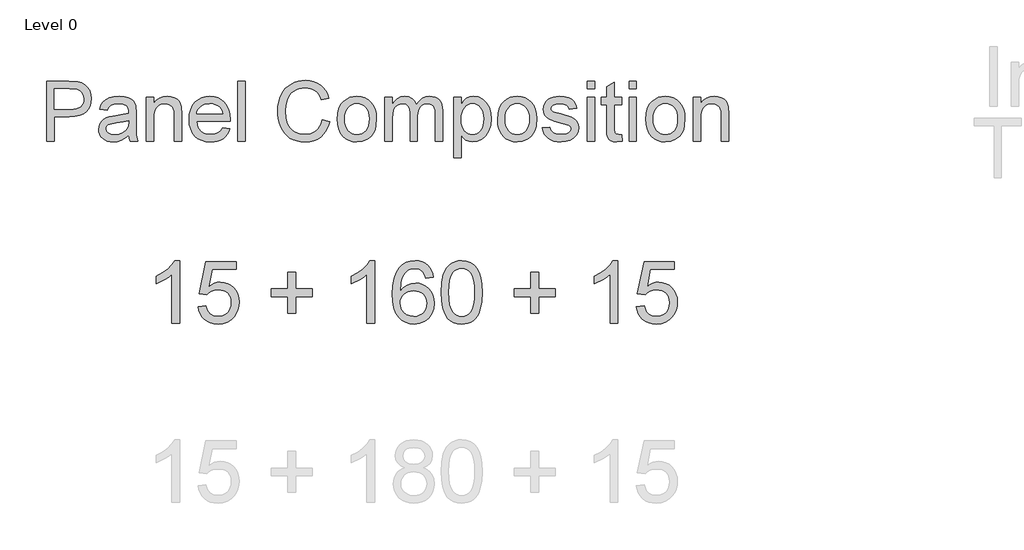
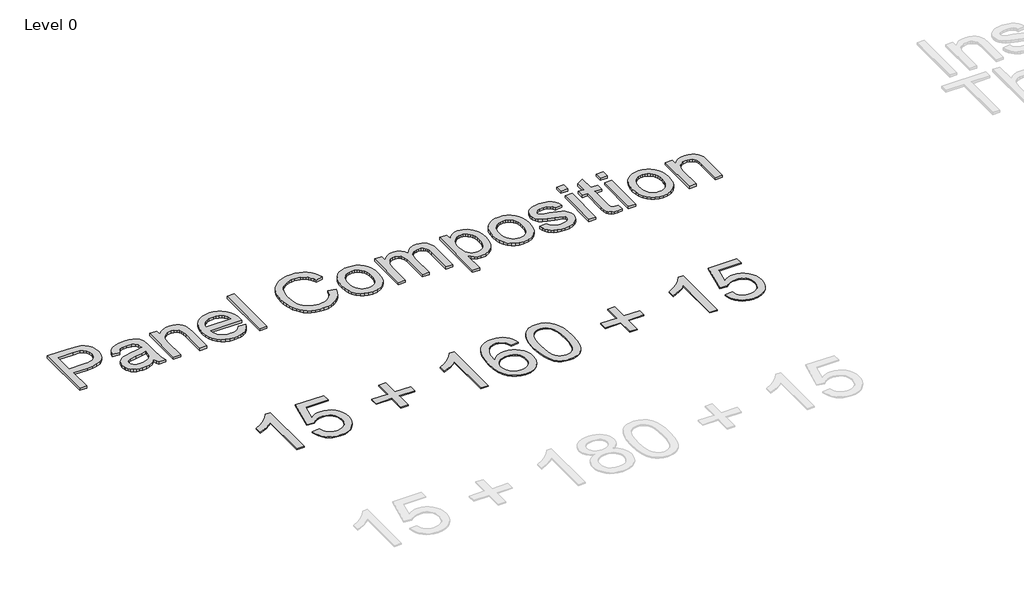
# One storey, part 8 of 11: 2 proxies.
"""IFC4 building model written with IfcOpenShell, lengths in millimetres."""

from ifc_helpers import new_model, si_unit, origin, origin_with_axes, place, context, project, spatial, polyline, outline, extrude, element, save

model = new_model("IFC4")

# Units and contexts
model_context = context("Model", 3, world=origin())
ifc_project = project(units=[si_unit("LENGTHUNIT", "METRE", prefix="MILLI")], contexts=[model_context])

# Site, building, storey
site = spatial("IfcSite", under=ifc_project)
building = spatial("IfcBuilding", under=site)
storey = spatial("IfcBuildingStorey", under=building, Name="Level 0", Elevation=0.0)

# Proxies
placement = place(None, origin())
element("IfcBuildingElementProxy", 1, Name="600mm Arial-500", ObjectType="600mm Arial-500", at=placement, inside=storey, context=model_context, shape_type="SweptSolid", body=[
    extrude(outline(polyline([(27142.4555622, 4210.6676088), (27079.6703683, 4210.6676088), (27079.6703683, 4602.0940517), (27053.4587762, 4580.8948517), (27020.1961124, 4559.7263086), (26954.0999806, 4528.0271433), (26954.0999806, 4587.3787719), (27003.4114964, 4614.2035007), (27046.1317931, 4646.1172638), (27079.8083241, 4680.0543778), (27101.9885427, 4712.9491596), (27142.4555622, 4712.9491596), (27142.4555622, 4210.6676088)])), origin_with_axes(), (0.0, 0.0, 1.0), 8.0),
    extrude(outline(polyline([(27291.5703975, 4344.0861457), (27354.3555914, 4351.934295), (27365.8825606, 4314.2417189), (27374.8650126, 4299.4076438), (27385.993443, 4287.2483775), (27399.244859, 4277.7792482), (27414.5962681, 4271.0155844), (27451.5990654, 4265.6046534), (27475.5113951, 4267.4862166), (27496.6032962, 4273.1309059), (27514.8747686, 4282.5387215), (27530.3258124, 4295.7096634), (27542.6115382, 4311.9922738), (27551.3870566, 4330.735095), (27556.6523677, 4351.9381271), (27558.4074714, 4375.60137), (27556.7634987, 4397.9655296), (27551.8315807, 4417.8464858), (27543.6117174, 4435.2442385), (27532.1039087, 4450.1587877), (27517.2698337, 4462.1226167), (27499.0711712, 4470.6682089), (27477.5079214, 4475.7955642), (27452.5800841, 4477.5046827), (27422.1225206, 4474.7762245), (27397.4590985, 4466.5908501), (27377.7620833, 4454.0522055), (27362.2037406, 4438.2639365), (27299.4185468, 4446.1120857), (27354.3555914, 4705.1010103), (27597.6482175, 4705.1010103), (27597.6482175, 4642.3158165), (27405.1233067, 4642.3158165), (27378.1452937, 4503.9921863), (27400.3025197, 4519.8724258), (27422.9962403, 4531.215454), (27446.2264555, 4538.0212709), (27469.9931652, 4540.2898765), (27500.573356, 4537.4771121), (27528.6703434, 4529.0388188), (27554.2841273, 4514.9749967), (27577.4147078, 4495.2856458), (27596.5675642, 4471.1740467), (27610.2481759, 4443.8434801), (27618.4565429, 4413.2939461), (27621.1926652, 4379.5254446), (27618.7324544, 4346.9985449), (27611.3518218, 4316.7402508), (27599.0507676, 4288.7505623), (27581.8292917, 4263.0294795), (27555.7403269, 4236.6875958), (27525.2980918, 4217.8719646), (27490.5025864, 4206.5825858), (27451.3538108, 4202.8194596), (27418.9533705, 4205.2375173), (27389.6875913, 4212.4916904), (27363.5564734, 4224.5819789), (27340.5600166, 4241.5083828), (27321.4263207, 4262.4278391), (27306.8834856, 4286.4972851), (27296.9315112, 4313.7167206), (27291.5703975, 4344.0861457)])), origin_with_axes(), (0.0, 0.0, 1.0), 8.0),
    extrude(outline(polyline([(28013.6001267, 4289.1491011), (28013.6001267, 4422.567638), (27880.1815898, 4422.567638), (27880.1815898, 4485.3528319), (28013.6001267, 4485.3528319), (28013.6001267, 4618.7713688), (28076.3853206, 4618.7713688), (28076.3853206, 4485.3528319), (28209.8038575, 4485.3528319), (28209.8038575, 4422.567638), (28076.3853206, 4422.567638), (28076.3853206, 4289.1491011), (28013.6001267, 4289.1491011)])), origin_with_axes(), (0.0, 0.0, 1.0), 8.0),
    extrude(outline(polyline([(28712.0854082, 4210.6676088), (28649.3002144, 4210.6676088), (28649.3002144, 4602.0940517), (28623.0886222, 4580.8948517), (28589.8259585, 4559.7263086), (28523.7298267, 4528.0271433), (28523.7298267, 4587.3787719), (28573.0413425, 4614.2035007), (28615.7616392, 4646.1172638), (28649.4381701, 4680.0543778), (28671.6183888, 4712.9491596), (28712.0854082, 4712.9491596), (28712.0854082, 4210.6676088)])), origin_with_axes(), (0.0, 0.0, 1.0), 8.0),
    extrude(outline(polyline([(29182.9743621, 4579.5306227), (29120.1891682, 4571.6824734), (29110.0724134, 4602.7991588), (29096.3994659, 4624.0443441), (29082.9027952, 4635.4716785), (29067.9192681, 4643.6340603), (29051.4488846, 4648.5314894), (29033.4916447, 4650.1639657), (29004.3063397, 4646.3625184), (28976.8378174, 4634.9581766), (28953.2473845, 4610.938548), (28933.979565, 4577.8751537), (28926.4494804, 4556.7870847), (28920.9657394, 4531.108155), (28916.1372882, 4465.9777135), (28941.3218765, 4495.3622878), (28971.5035285, 4516.0709785), (29004.9961185, 4528.3490401), (29040.1135206, 4532.4417273), (29070.2798442, 4529.6442913), (29098.1162485, 4521.2519833), (29123.6227335, 4507.2648032), (29146.7992992, 4487.6827512), (29166.0594545, 4463.6707868), (29179.8167083, 4436.3938697), (29188.0710605, 4405.8519999), (29190.8225113, 4372.0451774), (29185.6415065, 4327.0869319), (29170.0984922, 4285.4089675), (29145.4810554, 4250.0616391), (29113.076783, 4224.0953016), (29074.357203, 4208.1384201), (29030.7938434, 4202.8194596), (28993.3656825, 4206.3449954), (28959.5626921, 4216.9216027), (28929.3848722, 4234.5492817), (28902.8322227, 4259.2280322), (28881.1846666, 4292.0001866), (28865.7221265, 4333.9080772), (28856.4446024, 4384.951704), (28853.3520944, 4445.1310671), (28856.7856597, 4512.5990922), (28867.0863555, 4570.1802886), (28884.254182, 4617.8746564), (28908.289139, 4655.6821957), (28934.3397828, 4680.7364924), (28964.5444274, 4698.6324186), (28998.9030729, 4709.3699743), (29037.4157193, 4712.9491596), (29066.332777, 4710.7342034), (29092.5060481, 4704.0893349), (29115.9355327, 4693.014554), (29136.6212307, 4677.5098607), (29154.0036549, 4658.0964212), (29167.5233183, 4635.2954018), (29177.1802206, 4609.1068022), (29182.9743621, 4579.5306227)]), holes=[polyline([(28916.1372882, 4373.026196), (28919.7701229, 4345.2051201), (28930.668627, 4318.6409744), (28947.5911988, 4295.8016339), (28969.2962365, 4279.1549736), (28995.4925003, 4268.9922335), (29025.8887501, 4265.6046534), (29047.7125831, 4267.3597571), (29067.3214598, 4272.6250682), (29084.7153804, 4281.4005866), (29099.8943448, 4293.6863124), (29112.2068953, 4308.984072), (29121.0015743, 4326.795692), (29126.2783817, 4347.1211722), (29128.0373175, 4369.9605127), (29126.3013743, 4391.906973), (29121.0935448, 4411.3932224), (29112.413829, 4428.419261), (29100.2622268, 4442.9850888), (29085.0372772, 4454.6538458), (29067.1375188, 4462.9886723), (29046.5629518, 4467.9895681), (29023.3135762, 4469.6565334), (29001.7809831, 4467.9895681), (28981.9421801, 4462.9886723), (28963.7971671, 4454.6538458), (28947.3459442, 4442.9850888), (28933.6921572, 4428.6108662), (28923.9394522, 4412.1596433), (28918.0878292, 4393.6314199), (28916.1372882, 4373.026196)])]), origin_with_axes(), (0.0, 0.0, 1.0), 8.0),
    extrude(outline(polyline([(29245.7595559, 4457.7616822), (29250.3734093, 4538.1592266), (29264.2149693, 4602.2779927), (29274.5616504, 4628.4780885), (29287.1462804, 4651.0989991), (29301.9688591, 4670.1407245), (29319.0293866, 4685.6032646), (29338.3853445, 4697.5670936), (29360.0942143, 4706.1126858), (29384.1559961, 4711.2400411), (29410.5706897, 4712.9491596), (29449.2596129, 4708.9024576), (29483.9018341, 4696.7623518), (29512.8725412, 4677.004023), (29534.5469221, 4650.1026521), (29550.9176709, 4616.2881653), (29563.9774817, 4575.790489), (29572.5307381, 4524.3636518), (29575.3818236, 4457.7616822), (29570.8139555, 4377.8239904), (29557.1103512, 4313.8585085), (29546.8441442, 4287.6469163), (29534.3169959, 4264.9915168), (29519.5289061, 4245.8923099), (29502.4798749, 4230.3492956), (29483.1009244, 4218.3049923), (29461.3230767, 4209.7019186), (29437.1463318, 4204.5400743), (29410.5706897, 4202.8194596), (29375.9897822, 4205.8085008), (29345.3329493, 4214.7756244), (29318.600191, 4229.7208305), (29295.7915073, 4250.644119), (29273.9025285, 4288.4669866), (29258.2675437, 4335.594203), (29248.8865529, 4392.0257682), (29245.7595559, 4457.7616822)]), holes=[polyline([(29308.5447498, 4457.8843096), (29310.3841597, 4403.3036507), (29315.9023897, 4359.1233223), (29325.0994395, 4325.3433245), (29337.9753094, 4301.9636573), (29353.5489805, 4286.0565931), (29370.8394343, 4274.6944044), (29389.8466707, 4267.8770912), (29410.5706897, 4265.6046534), (29431.2947088, 4267.8847554), (29450.3019452, 4274.7250612), (29467.592399, 4286.125571), (29483.1660701, 4302.0862846), (29496.04194, 4325.5042729), (29505.2389898, 4359.2766065), (29510.7572198, 4403.4032854), (29512.5966297, 4457.8843096), (29510.8185334, 4511.0202653), (29505.4842445, 4554.4226765), (29496.593763, 4588.0915432), (29484.1470888, 4612.0268656), (29468.8340007, 4628.7118469), (29451.3442775, 4640.6296907), (29431.6779192, 4647.780397), (29409.8349258, 4650.1639657), (29389.2182056, 4648.0639727), (29370.5328659, 4641.7639935), (29353.7789067, 4631.2640282), (29338.956328, 4616.5640768), (29325.6512625, 4590.5057688), (29316.1476443, 4555.3730383), (29310.4454734, 4511.1658852), (29308.5447498, 4457.8843096)])]), origin_with_axes(), (0.0, 0.0, 1.0), 8.0),
    extrude(outline(polyline([(29967.7892851, 4289.1491011), (29967.7892851, 4422.567638), (29834.3707482, 4422.567638), (29834.3707482, 4485.3528319), (29967.7892851, 4485.3528319), (29967.7892851, 4618.7713688), (30030.574479, 4618.7713688), (30030.574479, 4485.3528319), (30163.9930159, 4485.3528319), (30163.9930159, 4422.567638), (30030.574479, 4422.567638), (30030.574479, 4289.1491011), (29967.7892851, 4289.1491011)])), origin_with_axes(), (0.0, 0.0, 1.0), 8.0),
    extrude(outline(polyline([(30666.2745666, 4210.6676088), (30603.4893728, 4210.6676088), (30603.4893728, 4602.0940517), (30577.2777806, 4580.8948517), (30544.0151169, 4559.7263086), (30477.9189851, 4528.0271433), (30477.9189851, 4587.3787719), (30527.2305009, 4614.2035007), (30569.9507975, 4646.1172638), (30603.6273285, 4680.0543778), (30625.8075471, 4712.9491596), (30666.2745666, 4712.9491596), (30666.2745666, 4210.6676088)])), origin_with_axes(), (0.0, 0.0, 1.0), 8.0),
    extrude(outline(polyline([(30815.389402, 4344.0861457), (30878.1745958, 4351.934295), (30889.701565, 4314.2417189), (30898.6840171, 4299.4076438), (30909.8124474, 4287.2483775), (30923.0638635, 4277.7792482), (30938.4152726, 4271.0155844), (30975.4180699, 4265.6046534), (30999.3303996, 4267.4862166), (31020.4223006, 4273.1309059), (31038.6937731, 4282.5387215), (31054.1448169, 4295.7096634), (31066.4305427, 4311.9922738), (31075.2060611, 4330.735095), (31080.4713721, 4351.9381271), (31082.2264758, 4375.60137), (31080.5825032, 4397.9655296), (31075.6505852, 4417.8464858), (31067.4307218, 4435.2442385), (31055.9229132, 4450.1587877), (31041.0888381, 4462.1226167), (31022.8901757, 4470.6682089), (31001.3269258, 4475.7955642), (30976.3990886, 4477.5046827), (30945.941525, 4474.7762245), (30921.2781029, 4466.5908501), (30901.5810878, 4454.0522055), (30886.0227451, 4438.2639365), (30823.2375512, 4446.1120857), (30878.1745958, 4705.1010103), (31121.467222, 4705.1010103), (31121.467222, 4642.3158165), (30928.9423112, 4642.3158165), (30901.9642982, 4503.9921863), (30924.1215242, 4519.8724258), (30946.8152448, 4531.215454), (30970.0454599, 4538.0212709), (30993.8121697, 4540.2898765), (31024.3923605, 4537.4771121), (31052.4893479, 4529.0388188), (31078.1031318, 4514.9749967), (31101.2337122, 4495.2856458), (31120.3865686, 4471.1740467), (31134.0671803, 4443.8434801), (31142.2755473, 4413.2939461), (31145.0116697, 4379.5254446), (31142.5514588, 4346.9985449), (31135.1708263, 4316.7402508), (31122.8697721, 4288.7505623), (31105.6482962, 4263.0294795), (31079.5593314, 4236.6875958), (31049.1170963, 4217.8719646), (31014.3215909, 4206.5825858), (30975.1728152, 4202.8194596), (30942.7723749, 4205.2375173), (30913.5065958, 4212.4916904), (30887.3754778, 4224.5819789), (30864.379021, 4241.5083828), (30845.2453252, 4262.4278391), (30830.70249, 4286.4972851), (30820.7505157, 4313.7167206), (30815.389402, 4344.0861457)])), origin_with_axes(), (0.0, 0.0, 1.0), 8.0),
])
element("IfcBuildingElementProxy", 2, Name="Arial-500 Blanco", ObjectType="Arial-500 Blanco", at=placement, inside=storey, context=model_context, shape_type="SweptSolid", body=[
    extrude(outline(polyline([(26072.4335672, 5675.3857513), (26072.4335672, 6155.0189703), (26250.1882612, 6155.0189703), (26321.852209, 6150.4521501), (26353.8053131, 6141.9186367), (26380.108441, 6128.0278919), (26401.2885334, 6108.1505143), (26417.8725311, 6081.6571022), (26428.5869939, 6050.4065858), (26432.1584815, 6016.257895), (26429.7469955, 5986.8150782), (26422.5125375, 5959.7288578), (26410.4551076, 5934.9992336), (26393.5747057, 5912.6262058), (26370.4002888, 5894.0808174), (26339.4608138, 5880.8341113), (26300.7562807, 5872.8860877), (26254.2866896, 5870.2367465), (26132.3877196, 5870.2367465), (26132.3877196, 5675.3857513), (26072.4335672, 5675.3857513)]), holes=[polyline([(26132.3877196, 5930.1908989), (26257.7996282, 5930.1908989), (26286.6349993, 5931.5667999), (26310.9620993, 5935.6945027), (26330.7809279, 5942.5740075), (26346.0914854, 5952.2053142), (26357.5158545, 5964.3322711), (26365.6761182, 5978.6987263), (26370.5722764, 5995.3046799), (26372.2043291, 6014.1501318), (26368.3547339, 6041.0826612), (26356.8059482, 6063.7996643), (26338.992422, 6080.8959655), (26316.3486051, 6090.9663895), (26256.3944528, 6095.0648179), (26132.3877196, 6095.0648179), (26132.3877196, 5930.1908989)])]), origin_with_axes(), (0.0, 0.0, 1.0), 20.0),
    extrude(outline(polyline([(26731.9292434, 5720.3513656), (26703.2841564, 5695.7900698), (26673.7901093, 5679.7183756), (26642.7737888, 5670.8482056), (26609.5618816, 5667.8914823), (26582.8672074, 5669.6699074), (26559.4585946, 5675.005183), (26539.3360431, 5683.8973088), (26522.4995529, 5696.346285), (26509.2052758, 5711.5617004), (26499.7093636, 5728.7531438), (26494.0118163, 5747.9206151), (26492.1126339, 5769.0641144), (26494.9815337, 5793.9181551), (26503.5882333, 5816.4887857), (26516.8642139, 5835.8099481), (26533.7409565, 5850.9155841), (26553.5744224, 5862.3326346), (26575.7205729, 5870.5880404), (26627.5949665, 5879.6045828), (26688.8957453, 5889.0895171), (26731.5779495, 5900.2138227), (26731.9292434, 5913.5629894), (26727.8015405, 5940.3198719), (26715.4184319, 5957.826016), (26687.7247658, 5970.8238889), (26649.14099, 5975.1565132), (26613.4261141, 5972.2729761), (26588.4842499, 5963.6223647), (26571.4757721, 5947.6238568), (26559.5610553, 5922.6966299), (26499.6069029, 5930.1908989), (26510.0139836, 5962.978326), (26525.5440997, 5988.7398758), (26547.6463385, 6008.4416066), (26577.7697871, 6023.0495763), (26614.6117309, 6032.0953932), (26656.869455, 6035.1106656), (26697.3999842, 6032.4466871), (26729.5287353, 6024.4547518), (26753.7533745, 6012.4375742), (26770.5715681, 5997.6978693), (26781.7251483, 5979.4745002), (26788.9559469, 5957.0063303), (26791.8833958, 5904.546447), (26791.8833958, 5829.9550504), (26794.9279426, 5725.7964204), (26806.8719338, 5675.3857513), (26746.9177815, 5675.3857513), (26737.3157493, 5696.2291871), (26731.9292434, 5720.3513656)]), holes=[polyline([(26731.9292434, 5840.2596703), (26691.6475472, 5830.2770698), (26635.2063335, 5821.8752916), (26583.6246848, 5812.1561614), (26570.2023319, 5805.5108525), (26560.263643, 5796.3479376), (26554.1160004, 5785.3700045), (26552.0667862, 5773.2796407), (26556.5311457, 5755.4514773), (26569.9242242, 5740.8435075), (26591.9532768, 5731.0951028), (26622.3255586, 5727.8456346), (26654.5274959, 5731.4317595), (26682.9822987, 5742.190134), (26706.0505956, 5758.0422695), (26722.0930153, 5776.9096773), (26729.2067159, 5796.3479376), (26731.5779495, 5823.280467), (26731.9292434, 5840.2596703)])]), origin_with_axes(), (0.0, 0.0, 1.0), 20.0),
    extrude(outline(polyline([(26874.3203553, 5675.3857513), (26874.3203553, 6027.6163965), (26934.2745076, 6027.6163965), (26934.2745076, 5978.4352559), (26955.1033062, 6003.2307476), (26980.1183566, 6020.9418131), (27009.3196588, 6031.5684525), (27042.7072129, 6035.1106656), (27072.259809, 6032.2564029), (27099.3240736, 6023.6936151), (27121.8947042, 6010.4908208), (27137.9663984, 5993.7165389), (27148.8711453, 5973.4146811), (27155.9409343, 5949.6291592), (27159.1025791, 5891.6656721), (27159.1025791, 5675.3857513), (27099.1484267, 5675.3857513), (27099.1484267, 5883.5859133), (27097.4212319, 5914.5875965), (27092.2396474, 5936.6312864), (27082.6815269, 5952.4248729), (27067.824724, 5964.6762463), (27048.7816693, 5972.5364465), (27026.6647932, 5975.1565132), (26991.5500443, 5969.272341), (26975.935764, 5961.9171258), (26961.6168799, 5951.6198245), (26949.654592, 5937.2094575), (26941.1101007, 5917.5150454), (26935.9834059, 5892.5365881), (26934.2745076, 5862.2740857), (26934.2745076, 5675.3857513), (26874.3203553, 5675.3857513)])), origin_with_axes(), (0.0, 0.0, 1.0), 20.0),
    extrude(outline(polyline([(27488.1478294, 5780.305518), (27546.9310022, 5772.8112489), (27537.9181191, 5749.2672416), (27525.7509098, 5728.5189479), (27510.4293744, 5710.5663678), (27491.9535129, 5695.4095014), (27470.5136094, 5683.370368), (27446.2999481, 5674.770987), (27419.3125291, 5669.6113585), (27389.5513522, 5667.8914823), (27352.350796, 5670.8591835), (27319.2047565, 5679.7622873), (27290.1132336, 5694.6007937), (27265.0762273, 5715.3747025), (27244.9426979, 5741.5058428), (27230.5616054, 5772.4160433), (27221.9329499, 5808.1053041), (27219.0567314, 5848.5736251), (27221.9622244, 5890.4141877), (27230.6787033, 5927.2927245), (27245.2061682, 5959.2092356), (27265.5446191, 5986.1637208), (27290.5157578, 6007.5780092), (27318.9412861, 6022.8739294), (27350.821204, 6032.0514815), (27386.1555116, 6035.1106656), (27420.3517734, 6032.0588001), (27451.2766112, 6022.9032039), (27478.9300248, 6007.6438768), (27503.3120144, 5986.2808188), (27523.2150073, 5959.3848825), (27537.4314307, 5927.5269204), (27545.9612848, 5890.7069326), (27548.8045695, 5848.9249189), (27548.4532756, 5832.7654013), (27279.0108838, 5832.7654013), (27282.48357, 5808.8408256), (27289.38869, 5787.8876105), (27299.7262437, 5769.9057559), (27313.4962312, 5754.895262), (27329.9375158, 5743.06105), (27348.2889608, 5734.6080415), (27368.5505661, 5729.5362363), (27390.7223318, 5727.8456346), (27422.6315242, 5730.9780049), (27449.5055046, 5740.3751157), (27471.344273, 5756.6224568), (27488.1478294, 5780.305518)]), holes=[polyline([(27279.0108838, 5892.7195537), (27488.8504171, 5892.7195537), (27480.7413838, 5924.3945502), (27464.8453366, 5947.0530043), (27448.4955348, 5959.3482894), (27429.8915973, 5968.1306359), (27409.0335243, 5973.4000439), (27385.9213157, 5975.1565132), (27345.5078843, 5969.5504486), (27327.9248947, 5962.542868), (27312.0910558, 5952.732255), (27298.8040973, 5940.5723644), (27288.8617492, 5926.5169506), (27282.2640113, 5910.5660137), (27279.0108838, 5892.7195537)])]), origin_with_axes(), (0.0, 0.0, 1.0), 20.0),
    extrude(outline(polyline([(27608.7587219, 5675.3857513), (27608.7587219, 6155.0189703), (27668.7128742, 6155.0189703), (27668.7128742, 5675.3857513), (27608.7587219, 5675.3857513)])), origin_with_axes(), (0.0, 0.0, 1.0), 20.0),
    extrude(outline(polyline([(28290.7372051, 5845.8803721), (28350.6913575, 5830.4234422), (28338.8278711, 5793.1387218), (28323.0269659, 5760.5598755), (28303.2886421, 5732.6869032), (28279.6128995, 5709.5198049), (28252.5339977, 5691.3074137), (28222.586196, 5678.2985629), (28189.7694944, 5670.4932524), (28154.083893, 5667.8914823), (28117.5237162, 5669.8601916), (28084.5423456, 5675.7663197), (28055.1397813, 5685.6098664), (28029.3160232, 5699.3908318), (28006.7161181, 5716.9042946), (27986.9851128, 5737.9453332), (27970.1230075, 5762.5139476), (27956.129802, 5790.6101379), (27945.1408909, 5821.0190128), (27937.2916687, 5852.525681), (27932.5821353, 5885.1301425), (27931.0122909, 5918.8323974), (27932.7870568, 5954.9937092), (27938.1113543, 5988.7691503), (27946.9851837, 6020.1587206), (27959.4085447, 6049.16242), (27975.1033298, 6075.3008789), (27993.7914314, 6098.0947275), (28015.4728494, 6117.5439658), (28040.1475839, 6133.6485937), (28066.9776526, 6146.2768762), (28095.1250732, 6155.2970779), (28124.5898459, 6160.709199), (28155.3719705, 6162.5132394), (28189.6633744, 6160.1785989), (28221.1078343, 6153.1746775), (28249.7053502, 6141.5014753), (28275.4559222, 6125.1589921), (28297.93507, 6104.5790267), (28316.7183137, 6080.1933778), (28331.8056531, 6052.0020454), (28343.1970885, 6020.0050295), (28283.2429361, 6005.7190791), (28273.8019136, 6029.2960203), (28262.4580493, 6049.4405277), (28249.2113433, 6066.1526013), (28234.0617955, 6079.4322411), (28216.9215825, 6089.5502362), (28197.7028808, 6096.7773755), (28153.0300114, 6102.559087), (28126.1340751, 6100.9563087), (28101.5361862, 6096.147974), (28079.2363446, 6088.1340828), (28059.2345504, 6076.9146351), (28041.7832959, 6062.9946158), (28027.1350738, 6046.8790099), (28015.2898839, 6028.5678174), (28006.2477262, 6008.0610382), (27994.786764, 5964.17858), (27990.9664433, 5918.9494953), (27995.4893517, 5863.5621632), (28009.0580771, 5815.6691), (28019.3626971, 5794.9903332), (28032.184923, 5777.0999615), (28047.524755, 5761.9979847), (28065.3821929, 5749.684403), (28105.18086, 5733.3053267), (28148.1118973, 5727.8456346), (28174.17717, 5729.7045646), (28198.1566354, 5735.2813547), (28220.0502934, 5744.5760048), (28239.8581442, 5757.5885149), (28257.1117958, 5774.2603361), (28271.3428565, 5794.5329194), (28282.5513263, 5818.4062647), (28290.7372051, 5845.8803721)])), origin_with_axes(), (0.0, 0.0, 1.0), 20.0),
    extrude(outline(polyline([(28410.6455099, 5851.5010739), (28413.8876595, 5897.1180456), (28423.6141083, 5936.4263649), (28439.8248563, 5969.4260321), (28462.5199035, 5996.1170469), (28485.3686417, 6013.1767551), (28510.5886135, 6025.3622609), (28538.1798189, 6032.6735644), (28568.1422578, 6035.1106656), (28601.2187705, 6032.1429643), (28631.1263198, 6023.2398605), (28657.8649057, 6008.4013541), (28681.4345282, 5987.6274453), (28700.6715264, 5961.6207216), (28714.4122394, 5931.0837708), (28722.6566673, 5896.0165929), (28725.4048099, 5856.419188), (28720.5452448, 5795.8502713), (28714.4707884, 5770.988912), (28705.9665495, 5749.742952), (28682.0932042, 5715.2136929), (28649.3496888, 5689.3789568), (28610.4585309, 5673.2633509), (28568.1422578, 5667.8914823), (28534.5827161, 5670.8482056), (28504.3970592, 5679.7183756), (28477.5852871, 5694.5019923), (28454.1473998, 5715.1990556), (28435.1153229, 5741.4582718), (28421.5209824, 5772.9283469), (28413.364378, 5809.6092809), (28410.6455099, 5851.5010739)]), holes=[polyline([(28470.5996623, 5851.6181719), (28472.3341757, 5822.5376269), (28477.537716, 5797.3579075), (28486.2102832, 5776.0790137), (28498.3518773, 5758.7009455), (28513.1208568, 5745.201747), (28529.67558, 5735.5594623), (28548.016047, 5729.7740916), (28568.1422578, 5727.8456346), (28588.1660079, 5729.7850695), (28606.4332887, 5735.6033741), (28622.9441002, 5745.3005484), (28637.6984424, 5758.8765924), (28649.8400365, 5776.4266482), (28658.5126037, 5798.045858), (28663.716144, 5823.7342216), (28665.4506575, 5853.4917391), (28663.7051661, 5881.6501377), (28658.468692, 5906.1711811), (28649.7412351, 5927.0548693), (28637.5227955, 5944.3012023), (28622.7135636, 5957.8004008), (28606.2137301, 5967.4426855), (28588.0232948, 5973.2280563), (28568.1422578, 5975.1565132), (28548.016047, 5973.2353749), (28529.67558, 5967.47196), (28513.1208568, 5957.8662684), (28498.3518773, 5944.4183003), (28486.2102832, 5927.0914624), (28477.537716, 5905.8491617), (28472.3341757, 5880.6913982), (28470.5996623, 5851.6181719)])]), origin_with_axes(), (0.0, 0.0, 1.0), 20.0),
    extrude(outline(polyline([(28792.8532313, 5675.3857513), (28792.8532313, 6027.6163965), (28852.8073837, 6027.6163965), (28852.8073837, 5969.6529093), (28870.8404686, 5996.2780566), (28894.0258634, 6017.1361296), (28921.5731571, 6030.6170316), (28952.6919383, 6035.1106656), (28986.0355807, 6030.5292081), (29012.7631886, 6016.7848358), (29032.7283898, 5994.7850577), (29045.7848116, 5965.437383), (29067.6382173, 5995.9194441), (29092.5654442, 6017.6923449), (29120.5664924, 6030.7560854), (29151.6413619, 6035.1106656), (29175.6427831, 6033.2993066), (29196.7094369, 6027.8652297), (29214.8413232, 6018.8084348), (29230.038442, 6006.128922), (29242.0519602, 5989.6803188), (29250.6330447, 5969.3162527), (29255.7816953, 5945.0367239), (29257.4979122, 5916.8417322), (29257.4979122, 5675.3857513), (29197.5437598, 5675.3857513), (29197.5437598, 5891.0801823), (29196.1532216, 5920.9840723), (29191.981607, 5941.1395576), (29184.1653186, 5954.9424789), (29171.840759, 5965.7886769), (29155.9886234, 5972.8145541), (29137.5896074, 5975.1565132), (29120.5994262, 5973.6561956), (29105.1095625, 5969.155243), (29091.1200163, 5961.6536554), (29078.6307877, 5951.1514326), (29068.3591015, 5937.3411927), (29061.0221829, 5919.9155534), (29056.6200317, 5898.8745149), (29055.1526479, 5874.218077), (29055.1526479, 5675.3857513), (28995.1984956, 5675.3857513), (28995.1984956, 5897.7547657), (28991.7294687, 5931.6546233), (28981.322388, 5955.8353508), (28973.275563, 5964.2883593), (28963.0111955, 5970.3262226), (28935.8298329, 5975.1565132), (28912.7322616, 5971.9363194), (28891.4497084, 5962.2757383), (28873.8850154, 5946.4089655), (28861.9410241, 5924.5701971), (28855.0907938, 5894.2711016), (28852.8073837, 5853.0233473), (28852.8073837, 5675.3857513), (28792.8532313, 5675.3857513)])), origin_with_axes(), (0.0, 0.0, 1.0), 20.0),
    extrude(outline(polyline([(29347.4291408, 5540.4889085), (29347.4291408, 6027.6163965), (29407.3832931, 6027.6163965), (29407.3832931, 5968.8332237), (29426.9386514, 5997.8296045), (29448.8359688, 6018.5413051), (29474.3633227, 6030.9683254), (29504.8087907, 6035.1106656), (29545.3539573, 6029.3143168), (29580.8053628, 6011.9252707), (29609.6700084, 5983.9974087), (29630.4548952, 5946.5846124), (29643.0136508, 5902.4094093), (29647.1999026, 5854.1943268), (29642.4720728, 5802.9200603), (29628.2885831, 5757.0615741), (29605.1031882, 5718.9461901), (29590.3049343, 5703.6649072), (29573.3696427, 5690.9012302), (29536.410601, 5673.6439192), (29497.5487176, 5667.8914823), (29469.9867867, 5671.7410775), (29445.3815792, 5683.2898632), (29424.3185847, 5700.7228211), (29407.3832931, 5722.2249328), (29407.3832931, 5540.4889085), (29347.4291408, 5540.4889085)]), holes=[polyline([(29407.3832931, 5848.690723), (29409.0043679, 5819.7968029), (29413.8675923, 5794.9427622), (29421.9729663, 5774.1286009), (29433.3204899, 5757.354319), (29446.9806981, 5744.4442696), (29462.0241259, 5735.2228057), (29478.4507732, 5729.6899274), (29496.2606401, 5727.8456346), (29514.3266588, 5729.755795), (29531.0533697, 5735.4862761), (29546.4407727, 5745.037078), (29560.4888678, 5758.4082006), (29572.1950039, 5775.7899281), (29580.5565297, 5797.3725447), (29585.5734451, 5823.1560504), (29587.2457503, 5853.1404453), (29585.6136975, 5881.7855322), (29580.7175393, 5906.5956612), (29572.5572757, 5927.5708322), (29561.1329066, 5944.7110452), (29547.4397646, 5958.0309374), (29532.4731823, 5967.5451462), (29516.2331599, 5973.2536714), (29498.7196971, 5975.1565132), (29481.2611241, 5973.1329142), (29464.8344767, 5967.0621171), (29449.4397551, 5956.944122), (29435.0769592, 5942.7789289), (29422.9609803, 5924.756822), (29414.3067097, 5903.0680853), (29409.1141473, 5877.712719), (29407.3832931, 5848.690723)])]), origin_with_axes(), (0.0, 0.0, 1.0), 20.0),
    extrude(outline(polyline([(29699.659786, 5851.5010739), (29702.9019356, 5897.1180456), (29712.6283844, 5936.4263649), (29728.8391323, 5969.4260321), (29751.5341795, 5996.1170469), (29774.3829178, 6013.1767551), (29799.6028896, 6025.3622609), (29827.194095, 6032.6735644), (29857.1565339, 6035.1106656), (29890.2330466, 6032.1429643), (29920.1405958, 6023.2398605), (29946.8791817, 6008.4013541), (29970.4488043, 5987.6274453), (29989.6858025, 5961.6207216), (30003.4265155, 5931.0837708), (30011.6709433, 5896.0165929), (30014.4190859, 5856.419188), (30009.5595209, 5795.8502713), (30003.4850645, 5770.988912), (29994.9808256, 5749.742952), (29971.1074803, 5715.2136929), (29938.3639649, 5689.3789568), (29899.472807, 5673.2633509), (29857.1565339, 5667.8914823), (29823.5969922, 5670.8482056), (29793.4113353, 5679.7183756), (29766.5995632, 5694.5019923), (29743.1616758, 5715.1990556), (29724.129599, 5741.4582718), (29710.5352584, 5772.9283469), (29702.3786541, 5809.6092809), (29699.659786, 5851.5010739)]), holes=[polyline([(29759.6139383, 5851.6181719), (29761.3484518, 5822.5376269), (29766.5519921, 5797.3579075), (29775.2245593, 5776.0790137), (29787.3661534, 5758.7009455), (29802.1351328, 5745.201747), (29818.6898561, 5735.5594623), (29837.0303231, 5729.7740916), (29857.1565339, 5727.8456346), (29877.180284, 5729.7850695), (29895.4475648, 5735.6033741), (29911.9583763, 5745.3005484), (29926.7127185, 5758.8765924), (29938.8543126, 5776.4266482), (29947.5268798, 5798.045858), (29952.7304201, 5823.7342216), (29954.4649336, 5853.4917391), (29952.7194422, 5881.6501377), (29947.4829681, 5906.1711811), (29938.7555112, 5927.0548693), (29926.5370716, 5944.3012023), (29911.7278397, 5957.8004008), (29895.2280062, 5967.4426855), (29877.0375709, 5973.2280563), (29857.1565339, 5975.1565132), (29837.0303231, 5973.2353749), (29818.6898561, 5967.47196), (29802.1351328, 5957.8662684), (29787.3661534, 5944.4183003), (29775.2245593, 5927.0914624), (29766.5519921, 5905.8491617), (29761.3484518, 5880.6913982), (29759.6139383, 5851.6181719)])]), origin_with_axes(), (0.0, 0.0, 1.0), 20.0),
    extrude(outline(polyline([(30059.3847002, 5780.305518), (30119.3388526, 5787.799787), (30128.7945124, 5762.1553351), (30147.0910677, 5743.3025645), (30174.3456164, 5731.7098671), (30210.6752566, 5727.8456346), (30246.5657795, 5731.3878477), (30271.8003885, 5742.014487), (30286.7303776, 5757.412868), (30291.7070407, 5775.2703059), (30286.7011032, 5790.5515889), (30271.6832906, 5802.2028353), (30209.9726689, 5819.2991366), (30155.2586499, 5835.1219976), (30119.6901465, 5848.632174), (30096.8414082, 5863.371879), (30080.286685, 5882.8833255), (30070.2308982, 5905.922348), (30066.8789693, 5931.2447805), (30069.5722222, 5954.4740871), (30077.651981, 5975.9176499), (30090.3863835, 5994.7265087), (30107.0435674, 6010.0517034), (30123.5982907, 6019.6976474), (30145.1589514, 6027.7920434), (30170.0861784, 6033.28101), (30196.7406001, 6035.1106656), (30235.7634932, 6032.1685795), (30269.6926254, 6023.3423212), (30296.9764486, 6009.4954881), (30316.0634151, 5991.4916777), (30328.7099941, 5967.9989007), (30336.672655, 5937.6851679), (30276.7185026, 5930.1908989), (30269.1510473, 5949.0583067), (30254.1771465, 5963.2710709), (30231.6504276, 5972.1851526), (30201.4245183, 5975.1565132), (30166.9977198, 5972.3168878), (30144.0465209, 5963.7980117), (30131.1364715, 5951.5027265), (30126.8331216, 5937.3338741), (30128.6188654, 5928.1124102), (30133.9760968, 5919.886279), (30143.1390117, 5912.5383824), (30156.341806, 5906.6542102), (30207.9820037, 5893.8905332), (30295.981116, 5865.6699263), (30319.2250598, 5852.1743871), (30336.8483019, 5833.7021849), (30347.9579703, 5810.1947707), (30351.6611931, 5781.5935955), (30347.3139315, 5752.0263621), (30334.2721469, 5724.2155981), (30313.0335055, 5700.3422527), (30284.0956737, 5682.5872755), (30249.1419345, 5671.5654306), (30209.8555709, 5667.8914823), (30177.587766, 5669.6625888), (30149.4037523, 5674.9759085), (30125.3035296, 5683.8314412), (30105.2870981, 5696.2291871), (30088.9372963, 5712.1105971), (30075.8369627, 5731.4171222), (30065.9860974, 5754.1487625), (30059.3847002, 5780.305518)])), origin_with_axes(), (0.0, 0.0, 1.0), 20.0),
    extrude(outline(polyline([(30419.1096145, 6095.0648179), (30419.1096145, 6155.0189703), (30479.0637669, 6155.0189703), (30479.0637669, 6095.0648179), (30419.1096145, 6095.0648179)])), origin_with_axes(), (0.0, 0.0, 1.0), 20.0),
    extrude(outline(polyline([(30419.1096145, 5675.3857513), (30419.1096145, 6027.6163965), (30479.0637669, 6027.6163965), (30479.0637669, 5675.3857513), (30419.1096145, 5675.3857513)])), origin_with_axes(), (0.0, 0.0, 1.0), 20.0),
    extrude(outline(polyline([(30696.3975692, 5725.3865776), (30703.8918383, 5673.629282), (30659.0433219, 5667.8914823), (30630.2664998, 5670.3798138), (30608.8082997, 5677.8448083), (30593.6441147, 5689.3496823), (30583.7493376, 5703.957652), (30578.3042827, 5729.0458887), (30576.4892645, 5771.9915632), (30576.4892645, 5967.6622441), (30531.5236502, 5967.6622441), (30531.5236502, 6027.6163965), (30576.4892645, 6027.6163965), (30576.4892645, 6113.2150008), (30636.4434168, 6148.4614849), (30636.4434168, 6027.6163965), (30696.3975692, 6027.6163965), (30696.3975692, 5967.6622441), (30636.4434168, 5967.6622441), (30636.4434168, 5773.7480325), (30639.6050616, 5742.8341727), (30649.8511326, 5731.885514), (30670.2847255, 5727.8456346), (30696.3975692, 5725.3865776)])), origin_with_axes(), (0.0, 0.0, 1.0), 20.0),
    extrude(outline(polyline([(30756.3517216, 6095.0648179), (30756.3517216, 6155.0189703), (30816.305874, 6155.0189703), (30816.305874, 6095.0648179), (30756.3517216, 6095.0648179)])), origin_with_axes(), (0.0, 0.0, 1.0), 20.0),
    extrude(outline(polyline([(30756.3517216, 5675.3857513), (30756.3517216, 6027.6163965), (30816.305874, 6027.6163965), (30816.305874, 5675.3857513), (30756.3517216, 5675.3857513)])), origin_with_axes(), (0.0, 0.0, 1.0), 20.0),
    extrude(outline(polyline([(30891.2485644, 5851.5010739), (30894.490714, 5897.1180456), (30904.2171628, 5936.4263649), (30920.4279108, 5969.4260321), (30943.122958, 5996.1170469), (30965.9716962, 6013.1767551), (30991.1916681, 6025.3622609), (31018.7828734, 6032.6735644), (31048.7453124, 6035.1106656), (31081.821825, 6032.1429643), (31111.7293743, 6023.2398605), (31138.4679602, 6008.4013541), (31162.0375827, 5987.6274453), (31181.274581, 5961.6207216), (31195.015294, 5931.0837708), (31203.2597218, 5896.0165929), (31206.0078644, 5856.419188), (31201.1482993, 5795.8502713), (31195.073843, 5770.988912), (31186.5696041, 5749.742952), (31162.6962587, 5715.2136929), (31129.9527434, 5689.3789568), (31091.0615855, 5673.2633509), (31048.7453124, 5667.8914823), (31015.1857707, 5670.8482056), (30985.0001137, 5679.7183756), (30958.1883416, 5694.5019923), (30934.7504543, 5715.1990556), (30915.7183775, 5741.4582718), (30902.1240369, 5772.9283469), (30893.9674326, 5809.6092809), (30891.2485644, 5851.5010739)]), holes=[polyline([(30951.2027168, 5851.6181719), (30952.9372303, 5822.5376269), (30958.1407706, 5797.3579075), (30966.8133378, 5776.0790137), (30978.9549319, 5758.7009455), (30993.7239113, 5745.201747), (31010.2786345, 5735.5594623), (31028.6191016, 5729.7740916), (31048.7453124, 5727.8456346), (31068.7690625, 5729.7850695), (31087.0363433, 5735.6033741), (31103.5471548, 5745.3005484), (31118.301497, 5758.8765924), (31130.4430911, 5776.4266482), (31139.1156583, 5798.045858), (31144.3191986, 5823.7342216), (31146.053712, 5853.4917391), (31144.3082207, 5881.6501377), (31139.0717465, 5906.1711811), (31130.3442897, 5927.0548693), (31118.12585, 5944.3012023), (31103.3166182, 5957.8004008), (31086.8167846, 5967.4426855), (31068.6263494, 5973.2280563), (31048.7453124, 5975.1565132), (31028.6191016, 5973.2353749), (31010.2786345, 5967.47196), (30993.7239113, 5957.8662684), (30978.9549319, 5944.4183003), (30966.8133378, 5927.0914624), (30958.1407706, 5905.8491617), (30952.9372303, 5880.6913982), (30951.2027168, 5851.6181719)])]), origin_with_axes(), (0.0, 0.0, 1.0), 20.0),
    extrude(outline(polyline([(31273.4562858, 5675.3857513), (31273.4562858, 6027.6163965), (31333.4104382, 6027.6163965), (31333.4104382, 5978.4352559), (31354.2392367, 6003.2307476), (31379.2542871, 6020.9418131), (31408.4555894, 6031.5684525), (31441.8431435, 6035.1106656), (31471.3957396, 6032.2564029), (31498.4600042, 6023.6936151), (31521.0306348, 6010.4908208), (31537.1023289, 5993.7165389), (31548.0070759, 5973.4146811), (31555.0768649, 5949.6291592), (31558.2385096, 5891.6656721), (31558.2385096, 5675.3857513), (31498.2843572, 5675.3857513), (31498.2843572, 5883.5859133), (31496.5571624, 5914.5875965), (31491.375578, 5936.6312864), (31481.8174575, 5952.4248729), (31466.9606546, 5964.6762463), (31447.9175998, 5972.5364465), (31425.8007238, 5975.1565132), (31390.6859749, 5969.272341), (31375.0716946, 5961.9171258), (31360.7528104, 5951.6198245), (31348.7905226, 5937.2094575), (31340.2460313, 5917.5150454), (31335.1193365, 5892.5365881), (31333.4104382, 5862.2740857), (31333.4104382, 5675.3857513), (31273.4562858, 5675.3857513)])), origin_with_axes(), (0.0, 0.0, 1.0), 20.0),
])

save(model, "model.ifc")
